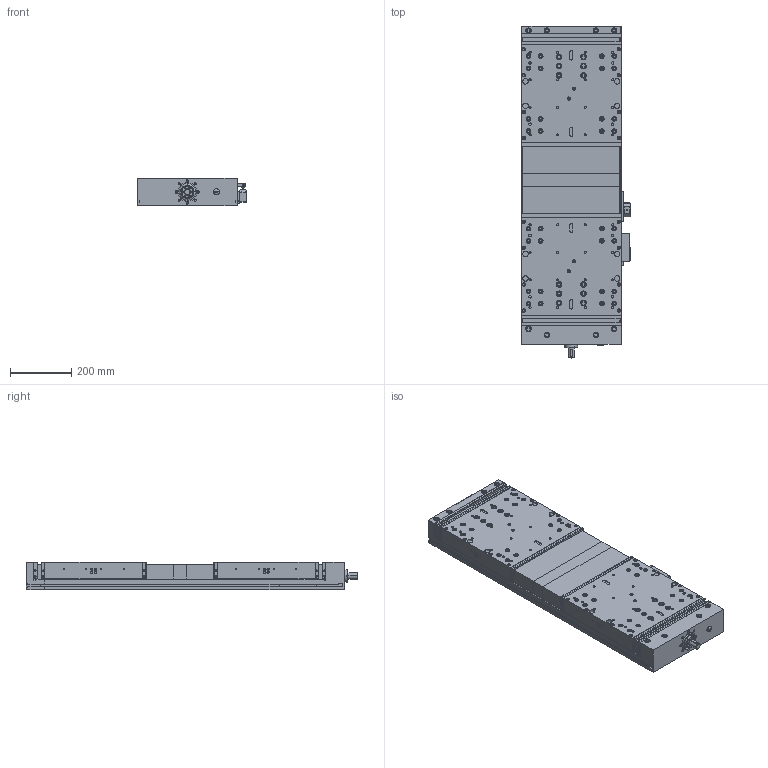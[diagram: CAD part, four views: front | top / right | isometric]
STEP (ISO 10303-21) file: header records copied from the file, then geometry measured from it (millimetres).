
FILE_DESCRIPTION(('Creo Elements/Direct Modeling STEP Export'),'2;1');
FILE_NAME('A30-B-325-RL-2x100_SP320_EMB.stp','2021-01-20T 8:08:38',(''),(''),'Creo Elements/Direct Modeling STEP processor for AP203 (Solid Model)','Creo Elements/Direct Modeling 20.1D 10-Oct-2020 (C) Parametric Technology GmbH','');
FILE_SCHEMA(('CONFIG_CONTROL_DESIGN'));
Length unit declared in the file: millimetre
Products named in the file (17): A30-B__Faltenbalg.02; A30-B__Faltenbalg.01; A30-B__Faltenbalg; A30-B__Faltenbalg_kpl; A30-B__Loslagerplatte; A30-B__Schlittenplatte_320; BNS-819-100-R-10.1; Befestigungsplatte_13190.02.02; Nockenhalter; EMB-kpl; A30-B__Grundkoerper; NS6; NS6.1; Nutensteinpaar; Nutensteine; A30-B__Schlittenplatte_320.02; A30-B-325-RL-2x100_SP320_EMB
Assembly tree (18 placements, depth 4):
  A30-B-325-RL-2x100_SP320_EMB
    A30-B__Schlittenplatte_320.02
    Nutensteine
      Nutensteinpaar
        NS6.1
        NS6
    A30-B__Grundkoerper
    EMB-kpl
      BNS-819-100-R-10.1  x2
      Befestigungsplatte_13190.02.02  x2
      Nockenhalter
    A30-B__Schlittenplatte_320
    A30-B__Loslagerplatte
    A30-B__Faltenbalg_kpl
      A30-B__Faltenbalg
      A30-B__Faltenbalg.01
      A30-B__Faltenbalg.02
Bounding box: 355.5 x 1085 x 90 mm (x, y, z)
Volume: 21653180.4 mm3; surface area: 2741803.9 mm2
Topology: 14 solids, 18 shells, 3140 faces, 7657 edges, 4875 vertices
Faces by surface type: plane 1705, cylinder 895, cone 424, extrusion 68, torus 26, sphere 22
Entity records: 85432 total; most frequent: CARTESIAN_POINT 15971, ORIENTED_EDGE 14186, DIRECTION 12577, EDGE_CURVE 7085, VECTOR 4705, LINE 4637, VERTEX_POINT 4609, AXIS2_PLACEMENT_3D 3936
